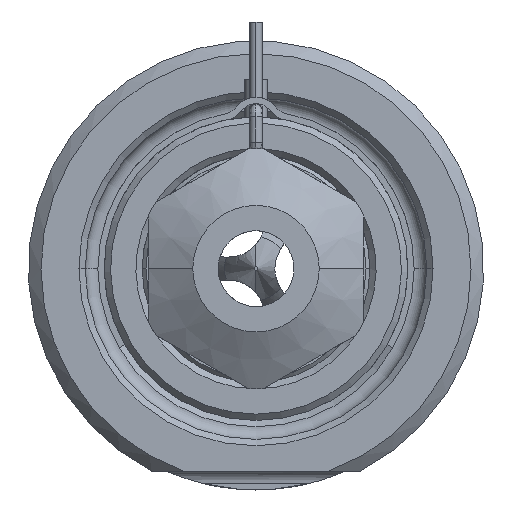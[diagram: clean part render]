
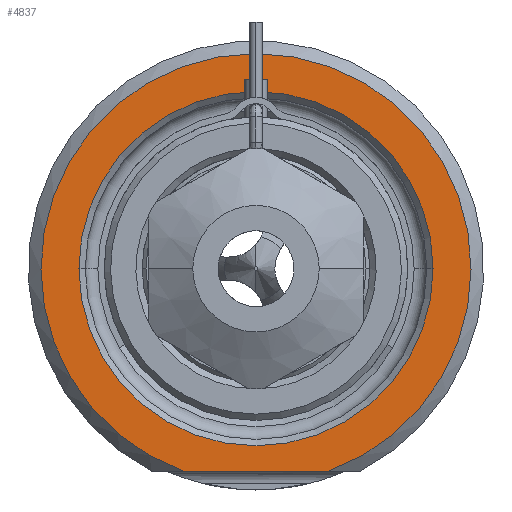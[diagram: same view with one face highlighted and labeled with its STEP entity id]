
A CAD part, front view. The second image highlights one B-rep face of the part: STEP entity #4837.
In plain terms, the highlighted planar face has unit normal (0, -1, 0).
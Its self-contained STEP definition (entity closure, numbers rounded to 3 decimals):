
#1263=CARTESIAN_POINT('',(0.,0.,0.));
#1264=DIRECTION('',(0.,-1.,0.));
#1265=DIRECTION('',(0.338,0.,-0.941));
#1266=AXIS2_PLACEMENT_3D('',#1263,#1264,#1265);
#1287=DIRECTION('',(1.,0.,0.));
#1288=VECTOR('',#1287,11.489);
#1289=CARTESIAN_POINT('',(-5.745,0.,-16.));
#1290=LINE('',#1289,#1288);
#1291=CARTESIAN_POINT('',(0.,0.,0.));
#1292=DIRECTION('',(0.,1.,0.));
#1293=DIRECTION('',(-1.,0.,0.));
#1294=AXIS2_PLACEMENT_3D('',#1291,#1292,#1293);
#1296=CARTESIAN_POINT('',(0.,0.,0.));
#1297=DIRECTION('',(0.,1.,0.));
#1298=DIRECTION('',(1.,0.,0.));
#1299=AXIS2_PLACEMENT_3D('',#1296,#1297,#1298);
#3056=CARTESIAN_POINT('',(-14.,0.,0.));
#3057=CARTESIAN_POINT('',(14.,0.,0.));
#3058=VERTEX_POINT('',#3056);
#3059=VERTEX_POINT('',#3057);
#3106=CARTESIAN_POINT('',(-5.745,0.,-16.));
#3107=CARTESIAN_POINT('',(5.745,0.,-16.));
#3108=VERTEX_POINT('',#3106);
#3109=VERTEX_POINT('',#3107);
#4822=CARTESIAN_POINT('',(0.,0.,0.));
#4823=DIRECTION('',(0.,-1.,0.));
#4824=DIRECTION('',(1.,0.,0.));
#4825=AXIS2_PLACEMENT_3D('',#4822,#4823,#4824);
#4826=PLANE('',#4825);
#4827=ORIENTED_EDGE('',*,*,#4754,.F.);
#4828=ORIENTED_EDGE('',*,*,#4814,.F.);
#4829=EDGE_LOOP('',(#4827,#4828));
#4830=FACE_OUTER_BOUND('',#4829,.F.);
#4832=ORIENTED_EDGE('',*,*,#4831,.F.);
#4834=ORIENTED_EDGE('',*,*,#4833,.F.);
#4835=EDGE_LOOP('',(#4832,#4834));
#4836=FACE_BOUND('',#4835,.F.);
#4837=ADVANCED_FACE('',(#4830,#4836),#4826,.T.);
#1267=CIRCLE('',#1266,17.);
#1295=CIRCLE('',#1294,14.);
#1300=CIRCLE('',#1299,14.);
#4754=EDGE_CURVE('',#3108,#3109,#1290,.T.);
#4814=EDGE_CURVE('',#3109,#3108,#1267,.T.);
#4831=EDGE_CURVE('',#3058,#3059,#1295,.T.);
#4833=EDGE_CURVE('',#3059,#3058,#1300,.T.);
